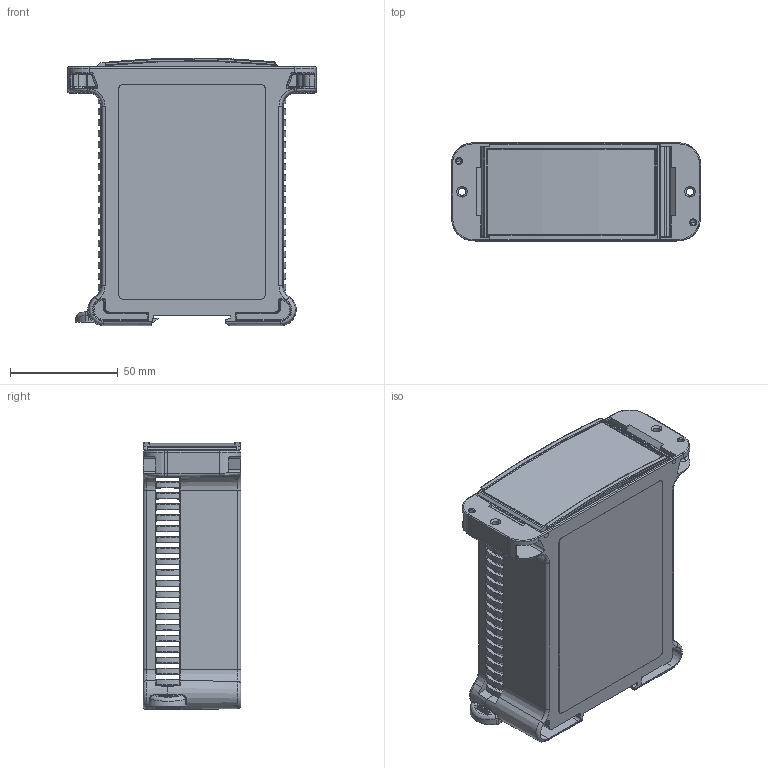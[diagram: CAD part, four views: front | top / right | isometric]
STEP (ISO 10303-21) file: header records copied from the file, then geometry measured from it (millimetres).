
FILE_DESCRIPTION((''),'2;1');
FILE_NAME('CAT_I_230_DIN','2024-10-25T08:15:16',('LGZ'),(''),'CREO PARAMETRIC BY PTC INC, 2023072','CREO PARAMETRIC BY PTC INC, 2023072','');
FILE_SCHEMA(('AUTOMOTIVE_DESIGN { 1 0 10303 214 1 1 1 1 }'));
Products named in the file (1): CAT_I_230_DIN
Bounding box: 116 x 45.5 x 124.53 mm (x, y, z)
Volume: 84707.6 mm3; surface area: 94897.4 mm2
Topology: 2 solids, 8 shells, 3077 faces, 8161 edges, 4967 vertices
Faces by surface type: plane 1392, cylinder 940, bspline 466, sphere 112, torus 104, cone 61, extrusion 2
Entity records: 132684 total; most frequent: CARTESIAN_POINT 62523, ORIENTED_EDGE 16298, DIRECTION 12072, EDGE_CURVE 8149, VERTEX_POINT 4967, VECTOR 4406, LINE 4404, AXIS2_PLACEMENT_3D 3833
